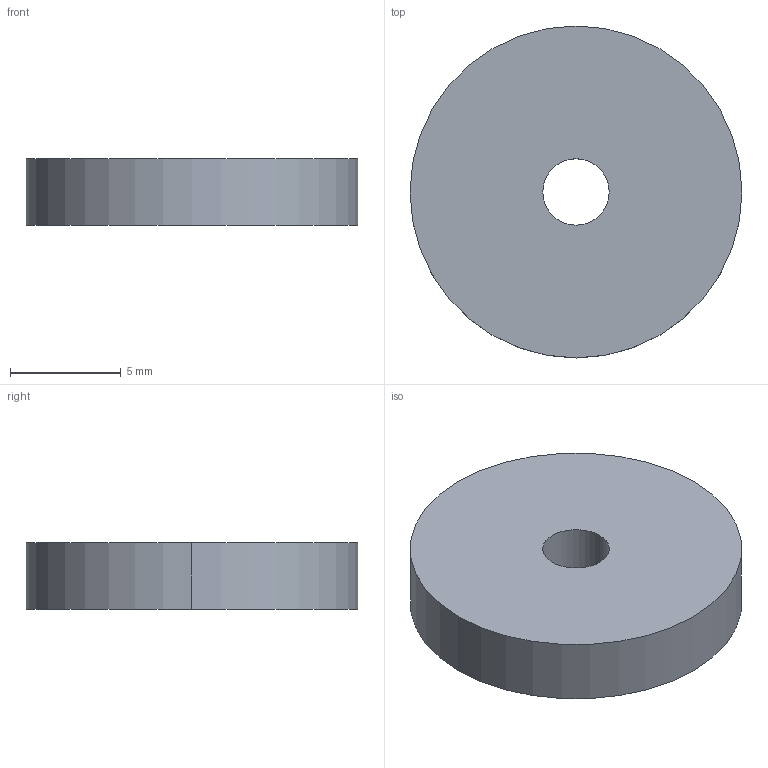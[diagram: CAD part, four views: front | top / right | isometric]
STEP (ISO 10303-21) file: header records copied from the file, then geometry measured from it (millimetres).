
FILE_DESCRIPTION(('STEP AP203'),'1');
FILE_NAME(' ',' ',('TraceParts'),('TraceParts S.A.'),'XStep 1.0',' ',' ');
FILE_SCHEMA(('CONFIG_CONTROL_DESIGN'));
Length unit declared in the file: millimetre
Products named in the file (1): 1
Bounding box: 15 x 15 x 3 mm (x, y, z)
Volume: 508.9 mm3; surface area: 508.9 mm2
Topology: 1 solids, 1 shells, 6 faces, 12 edges, 8 vertices
Faces by surface type: cylinder 4, plane 2
Entity records: 212 total; most frequent: DIRECTION 34, CARTESIAN_POINT 27, ORIENTED_EDGE 24, AXIS2_PLACEMENT_3D 15, EDGE_CURVE 12, EDGE_LOOP 8, VERTEX_POINT 8, CIRCLE 8
